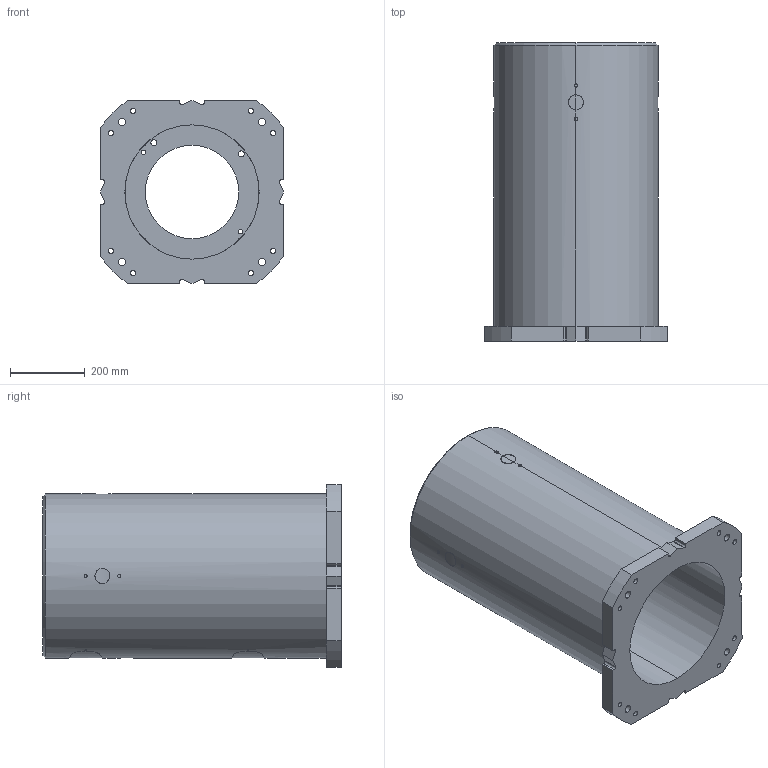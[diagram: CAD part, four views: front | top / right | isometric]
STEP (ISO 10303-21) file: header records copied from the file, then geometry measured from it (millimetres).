
FILE_DESCRIPTION (( 'STEP AP214' ), '1' );
FILE_NAME ('H-800.STEP', '2025-12-08T06:23:06', ( '' ), ( '' ), 'SwSTEP 2.0', 'SolidWorks 2022', '' );
FILE_SCHEMA (( 'AUTOMOTIVE_DESIGN' ));
Length unit declared in the file: millimetre
Products named in the file (1): H-800
Bounding box: 490 x 800 x 490 mm (x, y, z)
Volume: 45037652.2 mm3; surface area: 2404786.8 mm2
Topology: 1 solids, 1 shells, 175 faces, 485 edges, 320 vertices
Faces by surface type: cylinder 117, plane 32, bspline 24, cone 2
Entity records: 11418 total; most frequent: CARTESIAN_POINT 6447, ORIENTED_EDGE 970, DIRECTION 785, EDGE_CURVE 485, VERTEX_POINT 320, AXIS2_PLACEMENT_3D 302, EDGE_LOOP 225, VECTOR 181
